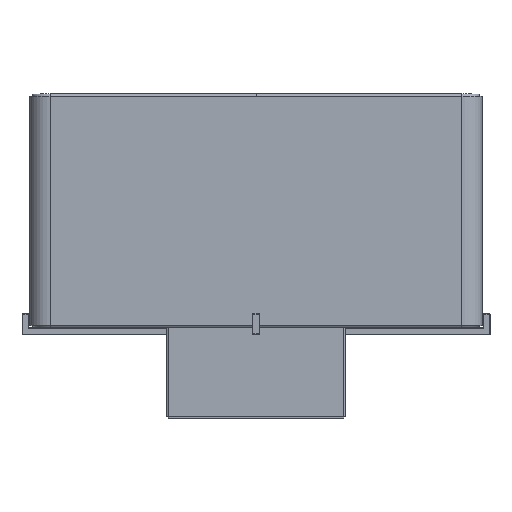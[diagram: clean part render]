
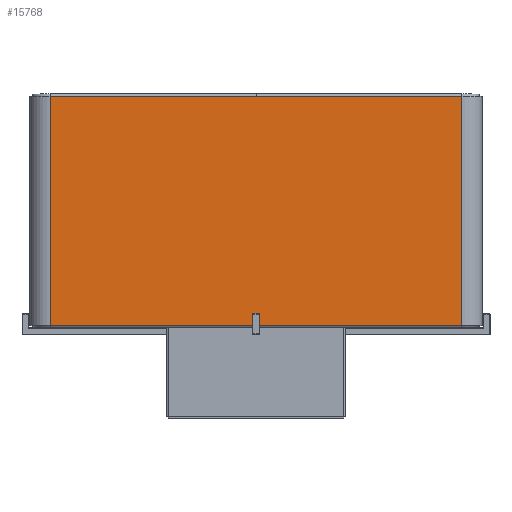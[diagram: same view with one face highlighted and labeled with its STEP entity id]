
A CAD part, top view. The second image highlights one B-rep face of the part: STEP entity #15768.
In plain terms, the highlighted planar face has unit normal (0, 0, 1).
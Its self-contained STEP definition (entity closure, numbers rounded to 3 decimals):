
#84 = DIRECTION ( 'NONE',  ( 0., 0., -1. ) ) ;
#287 = ORIENTED_EDGE ( 'NONE', *, *, #8536, .T. ) ;
#838 = DIRECTION ( 'NONE',  ( 0., -1., 0. ) ) ;
#1160 = DIRECTION ( 'NONE',  ( 0., -1., 0. ) ) ;
#1279 = CARTESIAN_POINT ( 'NONE',  ( 150., 167., 67.5 ) ) ;
#1329 = EDGE_LOOP ( 'NONE', ( #2918, #10312, #15197, #287 ) ) ;
#1679 = EDGE_CURVE ( 'NONE', #1852, #5119, #8504, .T. ) ;
#1700 = VECTOR ( 'NONE', #838, 1000. ) ;
#1852 = VERTEX_POINT ( 'NONE', #5478 ) ;
#2918 = ORIENTED_EDGE ( 'NONE', *, *, #5021, .F. ) ;
#4559 = LINE ( 'NONE', #8476, #1700 ) ;
#4614 = VERTEX_POINT ( 'NONE', #5312 ) ;
#4907 = CARTESIAN_POINT ( 'NONE',  ( 150., 0., 67.5 ) ) ;
#5021 = EDGE_CURVE ( 'NONE', #5119, #4614, #8983, .T. ) ;
#5119 = VERTEX_POINT ( 'NONE', #4907 ) ;
#5312 = CARTESIAN_POINT ( 'NONE',  ( -150., 0., 67.5 ) ) ;
#5478 = CARTESIAN_POINT ( 'NONE',  ( 150., 167., 67.5 ) ) ;
#5838 = CARTESIAN_POINT ( 'NONE',  ( 150., 167., 67.5 ) ) ;
#5929 = DIRECTION ( 'NONE',  ( -1., 0., 0. ) ) ;
#8388 = AXIS2_PLACEMENT_3D ( 'NONE', #1279, #84, #14420 ) ;
#8476 = CARTESIAN_POINT ( 'NONE',  ( -150., 167., 67.5 ) ) ;
#8504 = LINE ( 'NONE', #12685, #11395 ) ;
#8536 = EDGE_CURVE ( 'NONE', #10043, #4614, #4559, .T. ) ;
#8983 = LINE ( 'NONE', #14147, #14073 ) ;
#9953 = FACE_OUTER_BOUND ( 'NONE', #1329, .T. ) ;
#10043 = VERTEX_POINT ( 'NONE', #14408 ) ;
#10312 = ORIENTED_EDGE ( 'NONE', *, *, #1679, .F. ) ;
#11395 = VECTOR ( 'NONE', #1160, 1000. ) ;
#11522 = EDGE_CURVE ( 'NONE', #1852, #10043, #12532, .T. ) ;
#12388 = VECTOR ( 'NONE', #5929, 1000. ) ;
#12532 = LINE ( 'NONE', #5838, #12388 ) ;
#12685 = CARTESIAN_POINT ( 'NONE',  ( 150., 167., 67.5 ) ) ;
#12975 = PLANE ( 'NONE',  #8388 ) ;
#14073 = VECTOR ( 'NONE', #15430, 1000. ) ;
#14147 = CARTESIAN_POINT ( 'NONE',  ( 150., 0., 67.5 ) ) ;
#14408 = CARTESIAN_POINT ( 'NONE',  ( -150., 167., 67.5 ) ) ;
#14420 = DIRECTION ( 'NONE',  ( 0., 1., 0. ) ) ;
#15197 = ORIENTED_EDGE ( 'NONE', *, *, #11522, .T. ) ;
#15430 = DIRECTION ( 'NONE',  ( -1., 0., 0. ) ) ;
#15768 = ADVANCED_FACE ( 'NONE', ( #9953 ), #12975, .F. ) ;
